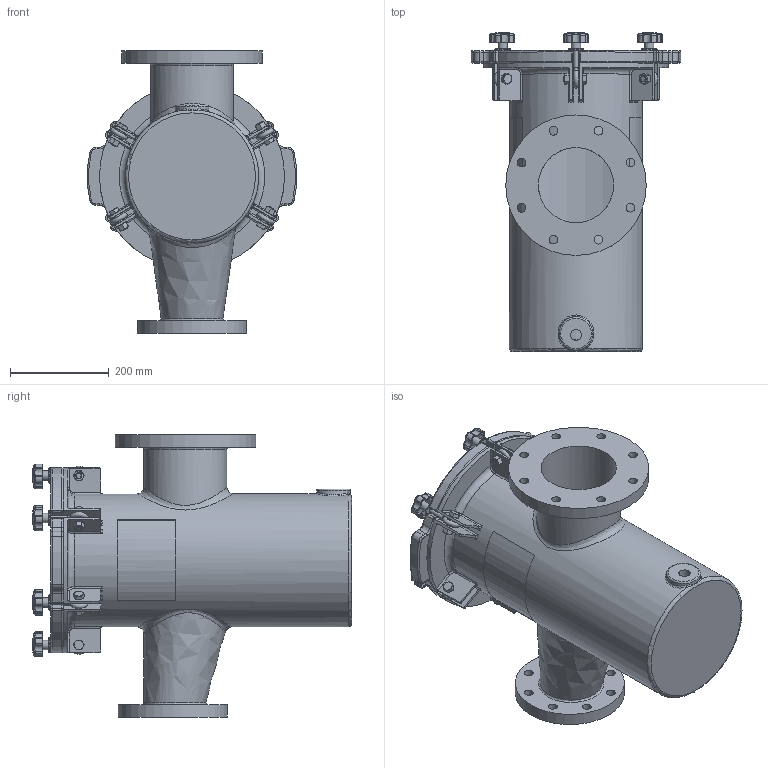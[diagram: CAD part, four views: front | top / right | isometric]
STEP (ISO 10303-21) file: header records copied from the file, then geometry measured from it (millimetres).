
FILE_DESCRIPTION(/* description */ ('150MM X 100MM FIBERGLASS STRAINER BODY'),/* implementation_level */ '2;1');
FILE_NAME(/* name */ 'E:\New folder (7)\Ready for delivery - Do not Disturb -Updated with metric Flange\Workspace\FG Reducing Strainer\Guardian FG Reducing H&L Strainer (Metric)\STRAINER H&L 150MM X 100MM.step',/* time_stamp */ '2016-10-19T04:14:10+06:00',/* author */ ('20076253'),/* organization */ (''),/* preprocessor_version */ 'ST-DEVELOPER v16.1',/* originating_system */ 'Autodesk Inventor 2016',/* authorisation */ '');
FILE_SCHEMA (('AUTOMOTIVE_DESIGN { 1 0 10303 214 3 1 1 }'));
Length unit declared in the file: inch
Products named in the file (18): NBFGBODY06X04MM; 150NBCVR48R1; 150NBGSK48R1; Perforated Basket 10in; Bride (Ring) 10in; Baffle 10in; Handle 10in; Bottom Strainer 10in; NBBSK08T316; Nut- 1_2  UNC; Bolt-1_2 x 1 1_2  UNC; EyeBolt; Washer; Knob M10; Securing Assembly For FG without Brace; Label for 10.625 inch (Right); Label for 10.625 inch (Left); STRAINER H&L 150MM X 100MM
Assembly tree (22 placements, depth 3):
  STRAINER H&L 150MM X 100MM
    NBFGBODY06X04MM
    150NBCVR48R1
    150NBGSK48R1
    NBBSK08T316
      Perforated Basket 10in
      Bride (Ring) 10in
      Baffle 10in
      Handle 10in
      Bottom Strainer 10in
    Securing Assembly For FG without Brace  x6
      Nut- 1_2  UNC
      Bolt-1_2 x 1 1_2  UNC
      EyeBolt
      Washer
      Knob M10
    Label for 10.625 inch (Right)
    Label for 10.625 inch (Left)
Bounding box: 424.18 x 646.2 x 571.5 mm (x, y, z)
Volume: 11318095.5 mm3; surface area: 2772082.5 mm2
Topology: 40 solids, 40 shells, 1269 faces, 2912 edges, 1722 vertices
Faces by surface type: cylinder 463, plane 330, cone 138, torus 124, bspline 112, sphere 102
Full cylindrical faces by diameter (mm): 3.175 x10, 6.35 x2, 8.382 x6, 9.525 x12, 10.592 x6, 12.7 x6, 15.875 x12, 17.78 x16, 19 x12, 19.05 x6, 22.809 x1, 31.75 x6, 68.263 x1, 152.4 x1, 168.275 x1, 187.325 x2, 190.5 x1, 193.04 x1, 220.98 x1, 254 x2, 266.7 x1, 269.875 x1, 276.225 x1, 284.48 x1, 311.15 x1, 317.5 x1
Entity records: 26073 total; most frequent: CARTESIAN_POINT 10131, DIRECTION 3292, ORIENTED_EDGE 2996, EDGE_CURVE 1498, AXIS2_PLACEMENT_3D 1390, VERTEX_POINT 950, EDGE_LOOP 856, CIRCLE 701
